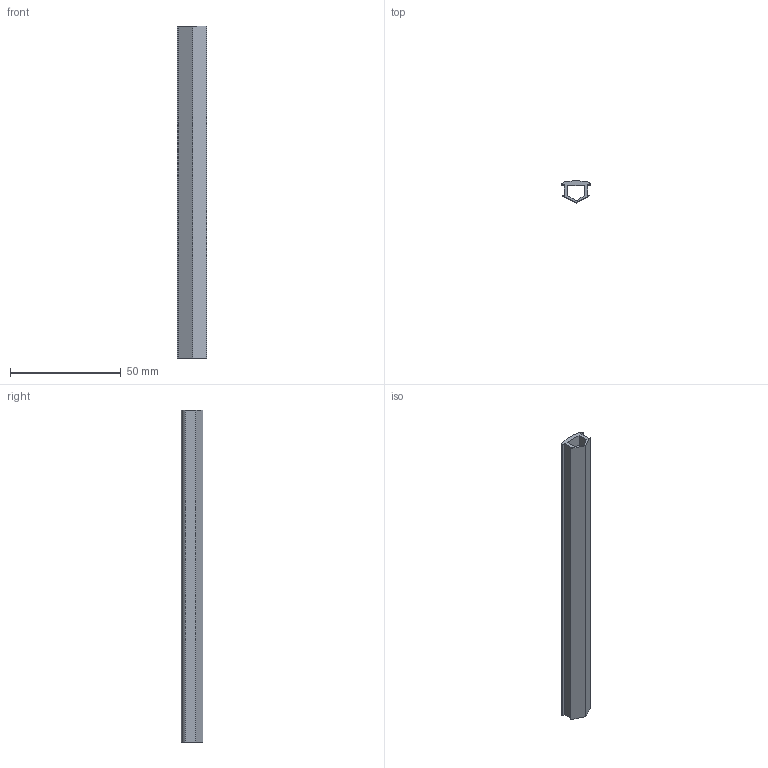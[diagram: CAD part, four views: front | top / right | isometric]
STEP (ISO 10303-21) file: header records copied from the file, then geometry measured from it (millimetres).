
FILE_DESCRIPTION (( 'STEP AP203' ), '1' );
FILE_NAME ('186-CE-DS-8.STEP', '2015-07-09T09:18:32', ( '' ), ( '' ), 'SwSTEP 2.0', 'SolidWorks 2013', '' );
FILE_SCHEMA (( 'CONFIG_CONTROL_DESIGN' ));
Length unit declared in the file: millimetre
Products named in the file (1): 186-CE-DS-8
Bounding box: 13.5 x 9.75 x 150 mm (x, y, z)
Volume: 6977.3 mm3; surface area: 10409.4 mm2
Topology: 1 solids, 1 shells, 18 faces, 48 edges, 32 vertices
Faces by surface type: plane 15, cylinder 3
Entity records: 639 total; most frequent: CARTESIAN_POINT 99, ORIENTED_EDGE 96, DIRECTION 92, EDGE_CURVE 48, LINE 42, VECTOR 42, VERTEX_POINT 32, AXIS2_PLACEMENT_3D 25
